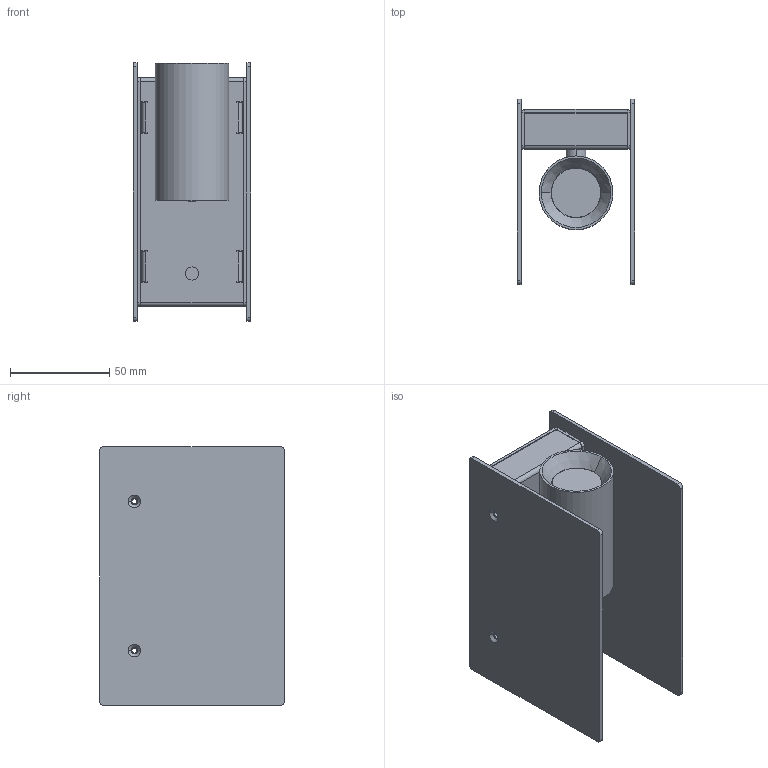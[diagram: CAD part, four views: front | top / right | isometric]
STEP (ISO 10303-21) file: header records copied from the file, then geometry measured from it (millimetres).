
FILE_DESCRIPTION (( 'STEP AP203' ), '1' );
FILE_NAME ('mini plint per sito.STEP', '2022-06-03T11:52:22', ( '' ), ( '' ), 'SwSTEP 2.0', 'SolidWorks 2016', '' );
FILE_SCHEMA (( 'CONFIG_CONTROL_DESIGN' ));
Length unit declared in the file: millimetre
Products named in the file (9): 010PLM700400_115 UP_115; mini plint per sito; 051UNT701000_DISSIPATORE; FLEX LED HP-dissipatore untitled_snodo corto 90; 010PLM700300_115 DOWN_115; 010PLM700100_FIANCO DX_dx; snodo modificato 25_90; LL01CR-DG60L06; 0-MOD-0018-0-00 - Corpo modificato
Assembly tree (9 placements, depth 3):
  mini plint per sito
    010PLM700400_115 UP_115
    010PLM700300_115 DOWN_115
    010PLM700100_FIANCO DX_dx  x2
    FLEX LED HP-dissipatore untitled_snodo corto 90
      LL01CR-DG60L06
      0-MOD-0018-0-00 - Corpo modificato
      snodo modificato 25_90
      051UNT701000_DISSIPATORE
Bounding box: 59 x 93 x 130 mm (x, y, z)
Volume: 114133 mm3; surface area: 126424.6 mm2
Topology: 9 solids, 9 shells, 588 faces, 1613 edges, 1036 vertices
Faces by surface type: plane 226, cone 179, cylinder 138, torus 23, bspline 22
Entity records: 20985 total; most frequent: CARTESIAN_POINT 5306, ORIENTED_EDGE 3138, DIRECTION 3130, EDGE_CURVE 1569, AXIS2_PLACEMENT_3D 1214, VERTEX_POINT 1008, LINE 702, VECTOR 702
